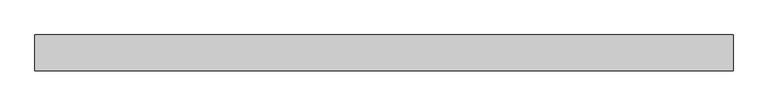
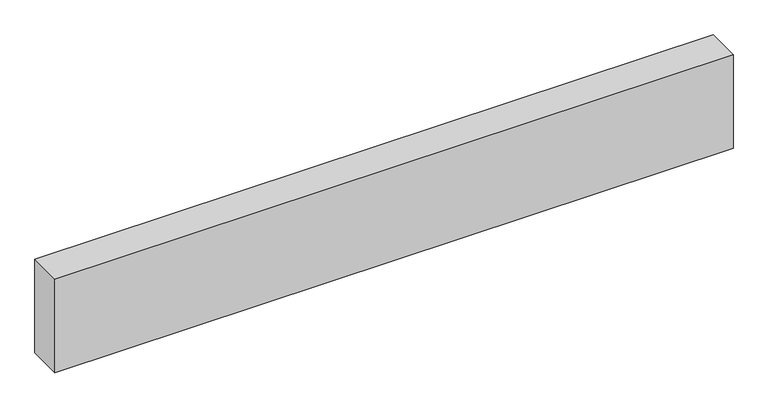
"""IFC4 building model written with IfcOpenShell, lengths in millimetres: plate geometry, Системная панель : Алюкобонд серый."""

import ifcopenshell
import ifcopenshell.guid

model = None  # the IFC model being written
_history = None  # IfcOwnerHistory: only IFC2X3 demands one
_inside = {}  # id of a spatial element -> (the spatial element, [elements in it])
_under = {}  # id of a project, library or spatial element -> (it, [spatial elements below it])
_declared = {}  # id of a project -> (the project, [libraries it declares])
_typed = {}  # id of a type object -> (the type object, [elements of that type])
_made_of = {}  # id of a material, layer set ... -> (it, [elements and type objects made of it])


def new_model(schema):
    """Start an empty IFC model of exactly this schema.

    Asked for "IFC4X3", IfcOpenShell would pick the latest addendum, in which some entities
    have other attributes; the version numbers below select the first issue.
    IFC2X3 requires an IfcOwnerHistory on every rooted entity: one is made here for all.
    """
    global model, _history
    if schema == "IFC4X3":
        model = ifcopenshell.file(schema_version=(4, 3, 0, 0))
    else:
        model = ifcopenshell.file(schema=schema)
    _inside.clear()
    _under.clear()
    _declared.clear()
    _typed.clear()
    _made_of.clear()
    _history = None
    if model.schema == "IFC2X3":
        org = make("IfcOrganization", Name="unknown")
        user = make(
            "IfcPersonAndOrganization",
            ThePerson=make("IfcPerson", FamilyName="unknown"),
            TheOrganization=org,
        )
        app = make(
            "IfcApplication",
            ApplicationDeveloper=org,
            Version="unknown",
            ApplicationFullName="unknown",
            ApplicationIdentifier="unknown",
        )
        _history = make(
            "IfcOwnerHistory",
            OwningUser=user,
            OwningApplication=app,
            ChangeAction="ADDED",
            CreationDate=0,
        )
    return model


def make(cls, **values):
    """One entity of the class cls with the attributes given. An attribute that is None is left unset."""
    return model.create_entity(
        cls, **{name: value for name, value in values.items() if value is not None}
    )


def rooted(cls, **values):
    """An entity with a GlobalId (a new one), such as an element, a storey or a relation."""
    return make(cls, GlobalId=ifcopenshell.guid.new(), OwnerHistory=_history, **values)


def si_unit(unit_type, name, prefix=None):
    """IfcSIUnit, for example si_unit("LENGTHUNIT", "METRE", prefix="MILLI")."""
    return make("IfcSIUnit", UnitType=unit_type, Prefix=prefix, Name=name)


def assignment(units):
    """IfcUnitAssignment: the units of a project."""
    return None if units is None else make("IfcUnitAssignment", Units=units)


def point(xyz):
    """IfcCartesianPoint."""
    return None if xyz is None else make("IfcCartesianPoint", Coordinates=xyz)


def direction(xyz):
    """IfcDirection."""
    return None if xyz is None else make("IfcDirection", DirectionRatios=xyz)


def frame(location, z_axis=None, x_axis=None):
    """IfcAxis2Placement3D, a coordinate frame: its origin and axes. An axis left out is left unset."""
    return make(
        "IfcAxis2Placement3D",
        Location=point(location),
        Axis=direction(z_axis),
        RefDirection=direction(x_axis),
    )


def origin():
    """The frame at (0, 0, 0) with its axes left unset."""
    return frame((0.0, 0.0, 0.0))


def origin_with_axes():
    """The frame at (0, 0, 0) with the z axis (0, 0, 1) and the x axis (1, 0, 0) written out."""
    return frame((0.0, 0.0, 0.0), z_axis=(0.0, 0.0, 1.0), x_axis=(1.0, 0.0, 0.0))


def place(relative_to, where):
    """IfcLocalPlacement: puts the frame where relative to a parent placement (None: the world)."""
    return make(
        "IfcLocalPlacement", PlacementRelTo=relative_to, RelativePlacement=where
    )


def context(
    kind, dimensions, precision=None, world=None, true_north=None, identifier=None
):
    """IfcGeometricRepresentationContext, for example the 3D "Model" context."""
    return make(
        "IfcGeometricRepresentationContext",
        ContextIdentifier=identifier,
        ContextType=kind,
        CoordinateSpaceDimension=dimensions,
        Precision=precision,
        WorldCoordinateSystem=world,
        TrueNorth=true_north,
    )


def project(units=None, contexts=None):
    """IfcProject with its units and contexts."""
    return rooted(
        "IfcProject",
        Name="project",
        RepresentationContexts=contexts,
        UnitsInContext=assignment(units),
    )


def spatial(cls, under=None, at=None, **own):
    """A site, building, storey or space (cls), placed at a placement, below another one or the project."""
    s = rooted(cls, ObjectPlacement=at, **own)
    if under is not None:
        _under.setdefault(under.id(), (under, []))[1].append(s)
    return s


def polyline(points):
    """IfcPolyline through the points."""
    return make("IfcPolyline", Points=[point(p) for p in points])


def outline(outer, holes=None, kind="AREA"):
    """IfcArbitraryClosedProfileDef: a profile drawn as a closed curve; with holes, ...WithVoids."""
    if holes is None:
        return make("IfcArbitraryClosedProfileDef", ProfileType=kind, OuterCurve=outer)
    return make(
        "IfcArbitraryProfileDefWithVoids",
        ProfileType=kind,
        OuterCurve=outer,
        InnerCurves=holes,
    )


def extrude(swept, where, along, depth):
    """IfcExtrudedAreaSolid: the profile swept, set in the frame where, extruded along a direction by depth."""
    return make(
        "IfcExtrudedAreaSolid",
        SweptArea=swept,
        Position=where,
        ExtrudedDirection=direction(along),
        Depth=depth,
    )


def shape(context_of_items, identifier, shape_type, items):
    """IfcShapeRepresentation: the items that make up one representation, for example the "Body"."""
    return make(
        "IfcShapeRepresentation",
        ContextOfItems=context_of_items,
        RepresentationIdentifier=identifier,
        RepresentationType=shape_type,
        Items=items,
    )


def source(mapping_origin, context_of_items, identifier, shape_type, items):
    """IfcRepresentationMap: a shape defined once, which mapped items show again and again."""
    return make(
        "IfcRepresentationMap",
        MappingOrigin=mapping_origin,
        MappedRepresentation=shape(context_of_items, identifier, shape_type, items),
    )


def transform(
    local_origin,
    x_axis=None,
    y_axis=None,
    z_axis=None,
    scale=None,
    scale2=None,
    scale3=None,
    uniform=True,
):
    """IfcCartesianTransformationOperator3D, or its non-uniform kind. x_axis, y_axis, z_axis: its Axis1, 2, 3."""
    if uniform:
        return make(
            "IfcCartesianTransformationOperator3D",
            Axis1=direction(x_axis),
            Axis2=direction(y_axis),
            LocalOrigin=point(local_origin),
            Scale=scale,
            Axis3=direction(z_axis),
        )
    return make(
        "IfcCartesianTransformationOperator3DnonUniform",
        Axis1=direction(x_axis),
        Axis2=direction(y_axis),
        LocalOrigin=point(local_origin),
        Scale=scale,
        Axis3=direction(z_axis),
        Scale2=scale2,
        Scale3=scale3,
    )


def mapped(mapping_source, mapping_target):
    """IfcMappedItem: shows the shape of a source again, moved by a transform."""
    return make(
        "IfcMappedItem", MappingSource=mapping_source, MappingTarget=mapping_target
    )


def made_of(thing, what):
    """Note that an element or type object is made of a material, layer set ...; save() writes the relation."""
    if what is not None:
        _made_of.setdefault(what.id(), (what, []))[1].append(thing)
    return thing


def element(
    cls,
    number,
    at=None,
    inside=None,
    cuts=None,
    type_object=None,
    material=None,
    context=None,
    identifier="Body",
    shape_type=None,
    held_by="IfcProductDefinitionShape",
    body=None,
    shapes=None,
    **own,
):
    """One element of the class cls, such as IfcWall. Its Tag is "e" and its number.

    at: its placement. inside: the storey or other place that contains it. cuts: it is an
    opening in that element (IfcRelVoidsElement). A single representation is given by context,
    identifier, shape_type and body (its items); several are given by shapes. held_by: the class
    of the entity that holds the representations. save() writes the other relations.
    """
    e = rooted(cls, Tag="e%d" % number, ObjectPlacement=at, **own)
    if body is not None:
        shapes = [shape(context, identifier, shape_type, body)]
    if shapes is not None:
        e.Representation = make(held_by, Representations=shapes)
    if inside is not None:
        _inside.setdefault(inside.id(), (inside, []))[1].append(e)
    if cuts is not None:
        rooted(
            "IfcRelVoidsElement", RelatingBuildingElement=cuts, RelatedOpeningElement=e
        )
    if type_object is not None:
        _typed.setdefault(type_object.id(), (type_object, []))[1].append(e)
    return made_of(e, material)


def aggregate(whole, parts):
    """IfcRelAggregates: a whole, such as a stair, and the parts it consists of."""
    return rooted("IfcRelAggregates", RelatingObject=whole, RelatedObjects=parts)


def save(model, path):
    """Write the relations noted so far, then the file.

    IfcRelAggregates (storeys below a building ...), IfcRelContainedInSpatialStructure (elements
    in a storey), IfcRelDefinesByType, IfcRelAssociatesMaterial and IfcRelDeclares: one each for
    every whole, place, type object, material and project.
    """
    for whole, parts in _under.values():
        aggregate(whole, parts)
    for where, things in _inside.values():
        rooted(
            "IfcRelContainedInSpatialStructure",
            RelatedElements=things,
            RelatingStructure=where,
        )
    for kind, things in _typed.values():
        rooted("IfcRelDefinesByType", RelatedObjects=things, RelatingType=kind)
    for what, things in _made_of.values():
        rooted("IfcRelAssociatesMaterial", RelatedObjects=things, RelatingMaterial=what)
    for by, libraries in _declared.values():
        rooted("IfcRelDeclares", RelatingContext=by, RelatedDefinitions=libraries)
    model.write(path)


def plate_48bdf14d(model_context):
    return source(origin(), model_context, "Body", "SweptSolid", [
        extrude(outline(polyline([(585.0, -10.5), (-585.0, -10.5), (-585.0, 49.5), (585.0, 49.5), (585.0, -10.5)])), origin_with_axes(), (0.0, 0.0, 1.0), 170.0),
    ])


if __name__ == "__main__":
    model = new_model("IFC4")
    model_context = context("Model", 3, world=origin())
    ifc_project = project(units=[si_unit("LENGTHUNIT", "METRE", prefix="MILLI")], contexts=[model_context])
    site = spatial("IfcSite", under=ifc_project)
    building = spatial("IfcBuilding", under=site)
    placement = place(None, origin())
    plate_shape = plate_48bdf14d(model_context)
    element("IfcPlate", 1, ObjectType="Системная панель : Алюкобонд серый", at=placement, inside=building, context=model_context, shape_type="MappedRepresentation", body=[
        mapped(plate_shape, transform((0.0, 0.0, 0.0), x_axis=(1.0, 0.0, 0.0), y_axis=(0.0, 1.0, 0.0), z_axis=(0.0, 0.0, 1.0))),
    ])
    save(model, "model.ifc")
